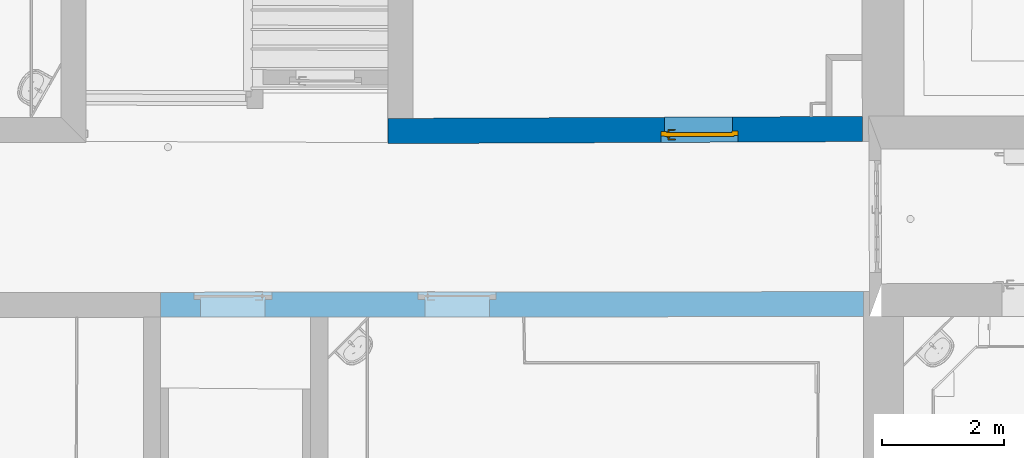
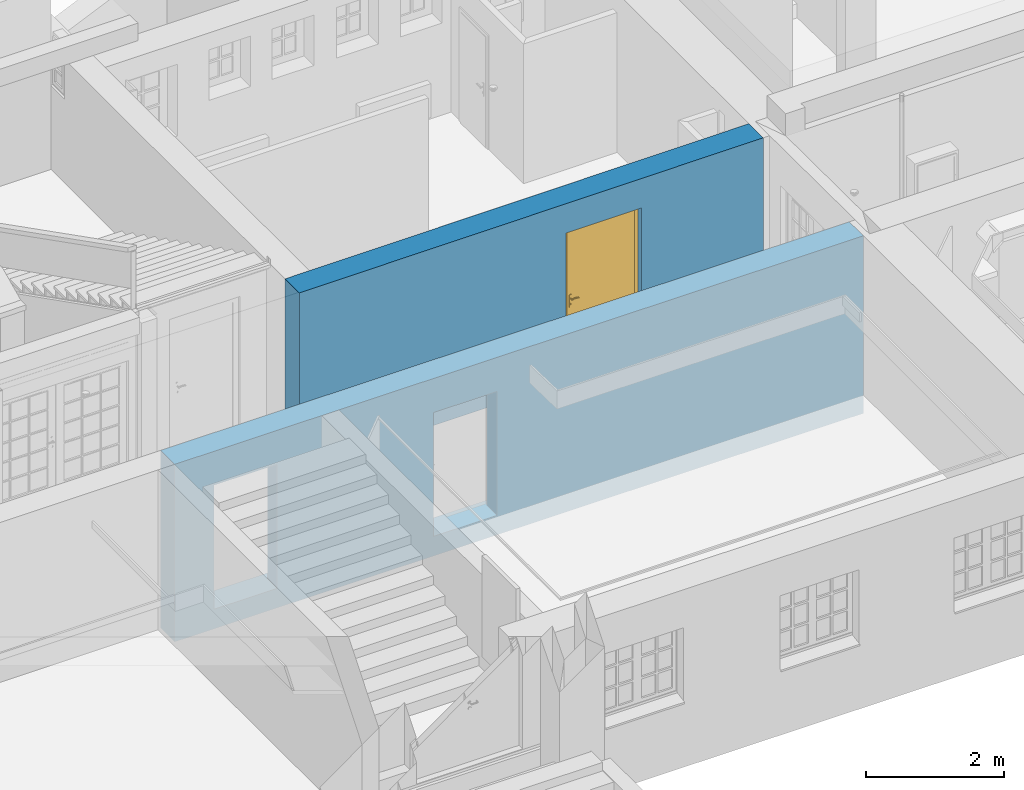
# One storey, part 89 of 196: 1 door, 1 wall, 3 openings, plus 1 element that does not belong to this part.
"""IFC2X3 building model written with IfcOpenShell, lengths in metres."""

from ifc_helpers import new_model, entity, si_unit, converted_unit, derived_unit, money_unit, direction, frame, origin_with_axes, origin_2d_with_axis, place, context, subcontext, project, spatial, polyline, rectangle, outline, extrude, boolean, faceted_brep, material, type_object, element, fill, save


model = new_model("IFC2X3")

# Units and contexts
model_context = context("Model", 3, precision=1e-05, world=origin_with_axes(), true_north=direction((0.0, 1.0)))
body_context = subcontext(model_context, "Body", "Model", "MODEL_VIEW")
ifc_project = project(units=[si_unit("LENGTHUNIT", "METRE"), si_unit("AREAUNIT", "SQUARE_METRE"), si_unit("VOLUMEUNIT", "CUBIC_METRE"), converted_unit("PLANEANGLEUNIT", "DEGREE", entity("IfcPlaneAngleMeasure", 0.0174532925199), si_unit("PLANEANGLEUNIT", "RADIAN"), dimensions=[0, 0, 0, 0, 0, 0, 0]), money_unit("EUR"), converted_unit("TIMEUNIT", "Year", entity("IfcTimeMeasure", 31556926.0), si_unit("TIMEUNIT", "SECOND"), dimensions=[0, 0, 1, 0, 0, 0, 0]), si_unit("MASSUNIT", "GRAM", prefix="KILO"), si_unit("THERMODYNAMICTEMPERATUREUNIT", "DEGREE_CELSIUS"), si_unit("LUMINOUSINTENSITYUNIT", "LUMEN"), si_unit("ENERGYUNIT", "JOULE", prefix="MEGA"), derived_unit("THERMALCONDUCTANCEUNIT", [(si_unit("POWERUNIT", "WATT"), 1), (si_unit("LENGTHUNIT", "METRE"), -1), (si_unit("THERMODYNAMICTEMPERATUREUNIT", "KELVIN"), -1)]), derived_unit("SPECIFICHEATCAPACITYUNIT", [(si_unit("ENERGYUNIT", "JOULE"), 1), (si_unit("MASSUNIT", "GRAM", prefix="KILO"), -1), (si_unit("THERMODYNAMICTEMPERATUREUNIT", "KELVIN"), -1)]), derived_unit("MASSDENSITYUNIT", [(si_unit("MASSUNIT", "GRAM", prefix="KILO"), 1), (si_unit("VOLUMEUNIT", "CUBIC_METRE"), -1)])], contexts=[model_context])

# Site, building, storey
site_placement = place(None, origin_with_axes())
site = spatial("IfcSite", under=ifc_project, at=site_placement, Name="Gelände", CompositionType="ELEMENT")
building_placement = place(site_placement, origin_with_axes())
building = spatial("IfcBuilding", under=site, at=building_placement, Name="Gebäude", CompositionType="ELEMENT")
storey_placement = place(building_placement, frame((0.0, 0.0, -3.0), z_axis=(0.0, 0.0, 1.0), x_axis=(1.0, 0.0, 0.0)))
storey = spatial("IfcBuildingStorey", under=building, at=storey_placement, Name="KELLERGESCHOSS", CompositionType="ELEMENT", Elevation=-3.0)

# Wall, openings
ifc_material = material(Name="05_ALLGEMEIN - TRAGENDE BAUTEILE")
wall_type_1 = type_object("IfcWallType", Name="05_ALLGEMEIN - TRAGENDE BAUTEILE 410", PredefinedType="ELEMENTEDWALL")
wall_1_placement = place(storey_placement, frame((3.60938984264, 16.81025163, -0.36), z_axis=(0.0, 0.0, 1.0), x_axis=(-0.999999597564, -0.000897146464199, 0.0)))
wall_1 = element("IfcWall", 1, at=wall_1_placement, inside=storey, type_object=wall_type_1, material=ifc_material, Name="Wand-036", ObjectType="ELEMENTEDWALL", context=body_context, shape_type="CSG", body=[
    boolean("DIFFERENCE", boolean("DIFFERENCE", extrude(outline(polyline([(0.0, 0.0), (12.2253754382, 0.0), (12.2253754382, 0.41), (0.0, 0.41), (0.0, 0.0)])), origin_with_axes(), (0.0, 0.0, 1.0), 3.15), faceted_brep([(12.2250234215, 0.41, 0.0), (12.2250234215, 0.41, 3.15), (12.2253754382, 0.41, 3.15), (12.2253754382, 0.41, 0.0), (12.2253754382, 0.0, 3.15), (12.2253754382, 0.0, 0.0)], [[[0, 1, 2, 3]], [[4, 1, 0, 5]], [[1, 4, 2]], [[4, 5, 3, 2]], [[5, 0, 3]]])), faceted_brep([(0.660000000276, 0.0, 3.15), (0.660011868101, 0.41, 3.15), (0.0, 0.41, 3.15), (0.0, 0.0, 3.15), (0.660011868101, 0.41, 0.0), (0.660000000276, 0.0, 0.0), (0.0, 0.41, 0.0), (0.0, 0.0, 0.0)], [[[0, 1, 2, 3]], [[4, 1, 0, 5]], [[1, 4, 6, 2]], [[2, 6, 7, 3]], [[5, 0, 3, 7]], [[4, 5, 7, 6]]])),
])
opening_1_placement = place(wall_1_placement, frame((7.34448336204, 0.0, 0.347304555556), z_axis=(0.0, 0.0, 1.0), x_axis=(1.0, 0.0, 0.0)))
element("IfcOpeningElement", 2, at=opening_1_placement, cuts=wall_1, Name="Tür-022", context=body_context, shape_type="SweptSolid", body=[
    extrude(rectangle(XDim=1.06444475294, YDim=2.200287, at=origin_2d_with_axis()), frame((0.0, 0.123, 1.1001435), z_axis=(0.0, -1.0, 0.0), x_axis=(-1.0, 0.0, 0.0)), (0.0, 0.0, -1.0), 0.697),
    extrude(rectangle(XDim=1.28444475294, YDim=2.310287, at=origin_2d_with_axis()), frame((0.0, 0.043, 1.1551435), z_axis=(0.0, 1.0, 0.0), x_axis=(-1.0, 0.0, 0.0)), (0.0, 0.0, 1.0), 0.08),
    extrude(rectangle(XDim=1.28444475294, YDim=2.310287, at=origin_2d_with_axis()), frame((0.0, 0.043, 1.1551435), z_axis=(0.0, 1.0, 0.0), x_axis=(-1.0, 0.0, 0.0)), (0.0, 0.0, -1.0), 0.453),
])
opening_2_placement = place(wall_1_placement, frame((11.0361313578, 0.0, 0.347304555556), z_axis=(0.0, 0.0, 1.0), x_axis=(1.0, 0.0, 0.0)))
element("IfcOpeningElement", 3, at=opening_2_placement, cuts=wall_1, Name="Tür-022", context=body_context, shape_type="SweptSolid", body=[
    extrude(rectangle(XDim=1.06444475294, YDim=2.200287, at=origin_2d_with_axis()), frame((0.0, 0.123, 1.1001435), z_axis=(0.0, 1.0, 0.0), x_axis=(1.0, 0.0, 0.0)), (0.0, 0.0, 1.0), 0.697),
    extrude(rectangle(XDim=1.28444475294, YDim=2.310287, at=origin_2d_with_axis()), frame((0.0, 0.043, 1.1551435), z_axis=(0.0, -1.0, 0.0), x_axis=(1.0, 0.0, 0.0)), (0.0, 0.0, -1.0), 0.08),
    extrude(rectangle(XDim=1.28444475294, YDim=2.310287, at=origin_2d_with_axis()), frame((0.0, 0.043, 1.1551435), z_axis=(0.0, -1.0, 0.0), x_axis=(1.0, 0.0, 0.0)), (0.0, 0.0, 1.0), 0.453),
])

# Wall, opening, door
wall_type_2 = type_object("IfcWallType", Name="05_ALLGEMEIN - TRAGENDE BAUTEILE 415", PredefinedType="ELEMENTEDWALL")
wall_2_placement = place(storey_placement, frame((3.62108026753, 19.2820486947, -0.36), z_axis=(0.0, 0.0, 1.0), x_axis=(-0.999990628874, -0.0043292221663, 0.0)))
wall_2 = element("IfcWall", 4, at=wall_2_placement, inside=storey, type_object=wall_type_2, material=ifc_material, Name="Wand-038", ObjectType="ELEMENTEDWALL", context=body_context, shape_type="CSG", body=[
    boolean("DIFFERENCE", boolean("DIFFERENCE", extrude(outline(polyline([(-0.00136566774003, -0.414615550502), (8.49651186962, -0.414615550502), (8.49651186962, 0.0), (-0.00136566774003, 0.0), (-0.00136566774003, -0.414615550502)])), origin_with_axes(), (0.0, 0.0, 1.0), 3.15), faceted_brep([(8.49651186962, 0.0, 3.15), (8.49453407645, -0.414615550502, 3.15), (8.49651186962, -0.414615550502, 3.15), (8.49453407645, -0.414615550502, 0.0), (8.49651186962, 0.0, 0.0), (8.49651186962, -0.414615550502, 0.0)], [[[0, 1, 2]], [[3, 1, 0, 4]], [[1, 3, 5, 2]], [[4, 0, 2, 5]], [[3, 4, 5]]])), faceted_brep([(0.688638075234, -0.414615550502, 3.15), (0.690003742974, 0.0, 3.15), (-0.00136566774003, 0.0, 3.15), (-0.00136566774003, -0.414615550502, 3.15), (0.690003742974, 0.0, 0.0), (0.688638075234, -0.414615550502, 0.0), (-0.00136566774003, 0.0, 0.0), (-0.00136566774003, -0.414615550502, 0.0)], [[[0, 1, 2, 3]], [[4, 1, 0, 5]], [[1, 4, 6, 2]], [[2, 6, 7, 3]], [[5, 0, 3, 7]], [[4, 5, 7, 6]]])),
])
opening_3_placement = place(wall_2_placement, frame((3.37078015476, 0.0, 0.324928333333), z_axis=(0.0, 0.0, 1.0), x_axis=(1.0, 0.0, 0.0)))
opening_3 = element("IfcOpeningElement", 5, at=opening_3_placement, cuts=wall_2, Name="Tür-022", context=body_context, shape_type="SweptSolid", body=[
    extrude(rectangle(XDim=1.11913323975, YDim=2.243924, at=origin_2d_with_axis()), frame((0.015, -0.18, 1.121962), z_axis=(0.0, -1.0, 0.0), x_axis=(-1.0, 0.0, 0.0)), (0.0, 0.0, 1.0), 0.649231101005),
    extrude(rectangle(XDim=1.26913323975, YDim=2.303924, at=origin_2d_with_axis()), frame((0.0, -0.11, 1.151962), z_axis=(0.0, 1.0, 0.0), x_axis=(-1.0, 0.0, 0.0)), (0.0, 0.0, 1.0), 0.524615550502),
    extrude(rectangle(XDim=1.26913323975, YDim=2.303924, at=origin_2d_with_axis()), frame((0.0, -0.11, 1.151962), z_axis=(0.0, 1.0, 0.0), x_axis=(-1.0, 0.0, 0.0)), (0.0, 0.0, -1.0), 0.07),
])
door_style = type_object("IfcDoorStyle", Name="Blockrahmentür 1-Fl 25", ConstructionType="NOTDEFINED", OperationType="SINGLE_SWING_LEFT", ParameterTakesPrecedence=False, Sizeable=False)
door_placement = place(opening_3_placement, frame((-0.539566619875, 0.0, 0.0), z_axis=(0.0, 0.0, 1.0), x_axis=(1.0, 0.0, 0.0)))
door = element("IfcDoor", 6, at=door_placement, inside=storey, type_object=door_style, Name="Tür-022", ObjectType="NOTDEFINED", OverallHeight=2.30392, OverallWidth=1.26913, context=body_context, shape_type="Brep", body=[
    faceted_brep([(-0.095, -0.18, 0.0), (-0.095, -0.18, 2.303924), (-0.095, -0.16, 2.303924), (-0.095, -0.16, 0.0), (0.0, -0.18, 0.0), (0.0, -0.18, 2.208924), (0.409466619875, -0.18, 2.208924), (0.539466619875, -0.18, 2.208924), (1.07913323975, -0.18, 2.208924), (1.07913323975, -0.18, 0.0), (1.17413323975, -0.18, 0.0), (1.17413323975, -0.18, 2.303924), (1.17413323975, -0.16, 2.303924), (1.17413323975, -0.16, 0.0), (1.07913323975, -0.16, 0.0), (1.07913323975, -0.16, 2.208924), (0.539466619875, -0.16, 2.208924), (0.409466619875, -0.16, 2.208924), (0.0, -0.16, 2.208924), (0.0, -0.16, 0.0)], [[[0, 1, 2, 3]], [[0, 4, 5, 6, 7, 8, 9, 10, 11, 1]], [[1, 11, 12, 2]], [[3, 2, 12, 13, 14, 15, 16, 17, 18, 19]], [[4, 0, 3, 19]], [[5, 4, 19, 18]], [[6, 5, 18, 17]], [[7, 6, 17, 16]], [[8, 7, 16, 15]], [[9, 8, 15, 14]], [[10, 9, 14, 13]], [[11, 10, 13, 12]]]),
    faceted_brep([(-0.095, -0.16, 0.0), (-0.095, -0.16, 2.303924), (-0.095, -0.11, 2.303924), (-0.095, -0.11, 0.0), (-0.03, -0.16, 0.0), (-0.03, -0.16, 2.238924), (0.439466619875, -0.16, 2.238924), (0.509466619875, -0.16, 2.238924), (1.10913323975, -0.16, 2.238924), (1.10913323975, -0.16, 0.0), (1.17413323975, -0.16, 0.0), (1.17413323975, -0.16, 2.303924), (1.17413323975, -0.11, 2.303924), (1.17413323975, -0.11, 0.0), (1.10913323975, -0.11, 0.0), (1.10913323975, -0.11, 2.238924), (0.509466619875, -0.11, 2.238924), (0.439466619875, -0.11, 2.238924), (-0.03, -0.11, 2.238924), (-0.03, -0.11, 0.0)], [[[0, 1, 2, 3]], [[0, 4, 5, 6, 7, 8, 9, 10, 11, 1]], [[1, 11, 12, 2]], [[3, 2, 12, 13, 14, 15, 16, 17, 18, 19]], [[4, 0, 3, 19]], [[5, 4, 19, 18]], [[6, 5, 18, 17]], [[7, 6, 17, 16]], [[8, 7, 16, 15]], [[9, 8, 15, 14]], [[10, 9, 14, 13]], [[11, 10, 13, 12]]]),
    faceted_brep([(-0.03, -0.095, 0.0), (-0.03, -0.095, 2.238924), (1.10913323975, -0.095, 2.238924), (1.10913323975, -0.095, 0.0), (-0.03, -0.16, 0.0), (-0.03, -0.16, 2.238924), (1.10913323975, -0.16, 2.238924), (1.10913323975, -0.16, 0.0)], [[[0, 1, 2, 3]], [[0, 4, 5, 1]], [[1, 5, 6, 2]], [[2, 6, 7, 3]], [[3, 7, 4, 0]], [[7, 6, 5, 4]]]),
    faceted_brep([(1.05383552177, -0.2, 1.05647213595), (1.05383552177, -0.18, 1.05647213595), (1.04913323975, -0.18, 1.058), (1.04913323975, -0.2, 1.058), (1.05674169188, -0.2, 1.05247213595), (1.05674169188, -0.18, 1.05247213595), (1.05501109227, -0.178, 1.05809016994), (1.04913323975, -0.178, 1.06), (1.04443095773, -0.18, 1.05647213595), (1.04443095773, -0.2, 1.05647213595), (1.04152478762, -0.2, 1.05247213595), (1.04152478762, -0.2, 1.04752786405), (1.04443095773, -0.2, 1.04352786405), (1.04913323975, -0.2, 1.042), (1.05383552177, -0.2, 1.04352786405), (1.05674169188, -0.2, 1.04752786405), (1.05674169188, -0.18, 1.04752786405), (1.05864380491, -0.178, 1.05309016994), (1.05501109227, -0.17, 1.05809016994), (1.04913323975, -0.17, 1.06), (1.04325538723, -0.178, 1.05809016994), (1.04152478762, -0.18, 1.05247213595), (1.04152478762, -0.18, 1.04752786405), (1.04443095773, -0.18, 1.04352786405), (1.04913323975, -0.18, 1.042), (1.05383552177, -0.18, 1.04352786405), (1.05864380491, -0.178, 1.04690983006), (1.05864380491, -0.17, 1.05309016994), (1.05864380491, -0.17, 1.04690983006), (1.05501109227, -0.17, 1.04190983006), (1.04913323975, -0.17, 1.04), (1.04325538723, -0.17, 1.04190983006), (1.03962267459, -0.17, 1.04690983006), (1.03962267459, -0.17, 1.05309016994), (1.04325538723, -0.17, 1.05809016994), (1.03962267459, -0.178, 1.05309016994), (1.03962267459, -0.178, 1.04690983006), (1.04325538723, -0.178, 1.04190983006), (1.04913323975, -0.178, 1.04), (1.05501109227, -0.178, 1.04190983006)], [[[0, 1, 2, 3]], [[4, 5, 1, 0]], [[1, 6, 7, 2]], [[3, 2, 8, 9]], [[3, 9, 10, 11, 12, 13, 14, 15, 4, 0]], [[15, 16, 5, 4]], [[5, 17, 6, 1]], [[6, 18, 19, 7]], [[2, 7, 20, 8]], [[9, 8, 21, 10]], [[10, 21, 22, 11]], [[11, 22, 23, 12]], [[12, 23, 24, 13]], [[13, 24, 25, 14]], [[14, 25, 16, 15]], [[16, 26, 17, 5]], [[17, 27, 18, 6]], [[19, 18, 27, 28, 29, 30, 31, 32, 33, 34]], [[7, 19, 34, 20]], [[8, 20, 35, 21]], [[21, 35, 36, 22]], [[22, 36, 37, 23]], [[23, 37, 38, 24]], [[24, 38, 39, 25]], [[25, 39, 26, 16]], [[26, 28, 27, 17]], [[39, 29, 28, 26]], [[38, 30, 29, 39]], [[37, 31, 30, 38]], [[36, 32, 31, 37]], [[35, 33, 32, 36]], [[20, 34, 33, 35]]]),
    faceted_brep([(1.03694485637, -0.17, 1.11759695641), (1.03233323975, -0.17, 1.11), (1.02663323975, -0.17, 1.11), (1.02663323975, -0.17, 0.89), (1.03233323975, -0.17, 0.89), (1.03694485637, -0.17, 0.882403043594), (1.0446896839, -0.17, 0.878044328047), (1.0535767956, -0.17, 0.878044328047), (1.06132162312, -0.17, 0.882403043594), (1.06593323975, -0.17, 0.89), (1.07163323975, -0.17, 0.89), (1.07163323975, -0.17, 1.11), (1.06593323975, -0.17, 1.11), (1.06132162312, -0.17, 1.11759695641), (1.0535767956, -0.17, 1.12195567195), (1.0446896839, -0.17, 1.12195567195), (1.04913323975, -0.17, 0.967425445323), (1.05450842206, -0.17, 0.965143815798), (1.05660107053, -0.17, 0.959692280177), (1.05413323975, -0.17, 0.9544), (1.05413323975, -0.17, 0.9375), (1.05266877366, -0.17, 0.933964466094), (1.04913323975, -0.17, 0.9325), (1.04559770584, -0.17, 0.933964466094), (1.04413323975, -0.17, 0.9375), (1.04413323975, -0.17, 0.9544), (1.04166540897, -0.17, 0.959692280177), (1.04375805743, -0.17, 0.965143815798), (1.03694485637, -0.16, 1.11759695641), (1.03233323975, -0.16, 1.11), (1.02663323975, -0.16, 1.11), (1.02663323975, -0.16, 0.89), (1.03233323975, -0.16, 0.89), (1.03694485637, -0.16, 0.882403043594), (1.0446896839, -0.16, 0.878044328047), (1.0535767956, -0.16, 0.878044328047), (1.06132162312, -0.16, 0.882403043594), (1.06593323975, -0.16, 0.89), (1.07163323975, -0.16, 0.89), (1.07163323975, -0.16, 1.11), (1.06593323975, -0.16, 1.11), (1.06132162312, -0.16, 1.11759695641), (1.0535767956, -0.16, 1.12195567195), (1.0446896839, -0.16, 1.12195567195), (1.04913323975, -0.16, 0.967425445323), (1.05450842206, -0.16, 0.965143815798), (1.05660107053, -0.16, 0.959692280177), (1.05413323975, -0.16, 0.9544), (1.05413323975, -0.16, 0.9375), (1.05266877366, -0.16, 0.933964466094), (1.04913323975, -0.16, 0.9325), (1.04559770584, -0.16, 0.933964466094), (1.04413323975, -0.16, 0.9375), (1.04413323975, -0.16, 0.9544), (1.04166540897, -0.16, 0.959692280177), (1.04375805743, -0.16, 0.965143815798)], [[[0, 1, 2, 3, 4, 5, 6, 7, 8, 9, 10, 11, 12, 13, 14, 15], [16, 17, 18, 19, 20, 21, 22, 23, 24, 25, 26, 27]], [[0, 28, 29, 1]], [[1, 29, 30, 2]], [[2, 30, 31, 3]], [[3, 31, 32, 4]], [[4, 32, 33, 5]], [[5, 33, 34, 6]], [[6, 34, 35, 7]], [[7, 35, 36, 8]], [[8, 36, 37, 9]], [[9, 37, 38, 10]], [[10, 38, 39, 11]], [[11, 39, 40, 12]], [[12, 40, 41, 13]], [[13, 41, 42, 14]], [[14, 42, 43, 15]], [[15, 43, 28, 0]], [[16, 44, 45, 17]], [[17, 45, 46, 18]], [[18, 46, 47, 19]], [[47, 48, 20, 19]], [[21, 20, 48, 49]], [[22, 21, 49, 50]], [[23, 22, 50, 51]], [[24, 23, 51, 52]], [[25, 24, 52, 53]], [[25, 53, 54, 26]], [[26, 54, 55, 27]], [[27, 55, 44, 16]], [[32, 31, 30, 29, 28, 43, 42, 41, 40, 39, 38, 37, 36, 35, 34, 33], [46, 45, 44, 55, 54, 53, 52, 51, 50, 49, 48, 47]]]),
    faceted_brep([(0.93488023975, -0.2, 1.057158), (0.934878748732, -0.2, 1.05719388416), (0.934878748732, -0.215, 1.05719388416), (0.93488023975, -0.215, 1.057158), (0.961907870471, -0.2, 1.06432652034), (0.989735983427, -0.2, 1.06706086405), (1.01764198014, -0.2, 1.06529002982), (1.04490123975, -0.2, 1.05906), (1.05130381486, -0.2, 1.05976125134), (1.05680587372, -0.2, 1.05641280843), (1.05912475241, -0.2, 1.05040385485), (1.05729840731, -0.2, 1.04422735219), (1.05208454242, -0.2, 1.04044577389), (1.04564625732, -0.2, 1.04062800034), (1.0406546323, -0.2, 1.04469843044), (1.04067523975, -0.2, 1.044666), (1.01538652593, -0.2, 1.05019878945), (0.989544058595, -0.2, 1.05171460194), (0.963781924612, -0.2, 1.04917624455), (0.93873223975, -0.2, 1.042646), (0.933189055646, -0.2, 1.04356849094), (0.92982751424, -0.2, 1.04807159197), (0.930519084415, -0.2, 1.05364829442), (0.930519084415, -0.215, 1.05364829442), (0.92982751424, -0.215, 1.04807159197), (0.933189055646, -0.215, 1.04356849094), (0.93873223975, -0.215, 1.042646), (0.963781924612, -0.215, 1.04917624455), (0.989544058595, -0.215, 1.05171460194), (1.01538652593, -0.215, 1.05019878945), (1.04067523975, -0.215, 1.044666), (1.0406546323, -0.215, 1.04469843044), (1.04564625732, -0.215, 1.04062800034), (1.05208454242, -0.215, 1.04044577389), (1.05729840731, -0.215, 1.04422735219), (1.05912475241, -0.215, 1.05040385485), (1.05680587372, -0.215, 1.05641280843), (1.05130381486, -0.215, 1.05976125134), (1.04490123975, -0.215, 1.05906), (1.01764198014, -0.215, 1.06529002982), (0.989735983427, -0.215, 1.06706086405), (0.961907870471, -0.215, 1.06432652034)], [[[0, 1, 2, 3]], [[0, 4, 5, 6, 7, 8, 9, 10, 11, 12, 13, 14, 15, 16, 17, 18, 19, 20, 21, 22, 1]], [[1, 22, 23, 2]], [[3, 2, 23, 24, 25, 26, 27, 28, 29, 30, 31, 32, 33, 34, 35, 36, 37, 38, 39, 40, 41]], [[4, 0, 3, 41]], [[5, 4, 41, 40]], [[6, 5, 40, 39]], [[7, 6, 39, 38]], [[8, 7, 38, 37]], [[9, 8, 37, 36]], [[10, 9, 36, 35]], [[11, 10, 35, 34]], [[12, 11, 34, 33]], [[13, 12, 33, 32]], [[14, 13, 32, 31]], [[15, 14, 31, 30]], [[16, 15, 30, 29]], [[17, 16, 29, 28]], [[18, 17, 28, 27]], [[19, 18, 27, 26]], [[20, 19, 26, 25]], [[21, 20, 25, 24]], [[22, 21, 24, 23]]]),
    faceted_brep([(1.05383552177, -0.055, 1.05647213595), (1.04913323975, -0.055, 1.058), (1.04913323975, -0.075, 1.058), (1.05383552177, -0.075, 1.05647213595), (1.05674169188, -0.055, 1.05247213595), (1.05674169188, -0.055, 1.04752786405), (1.05383552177, -0.055, 1.04352786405), (1.04913323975, -0.055, 1.042), (1.04443095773, -0.055, 1.04352786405), (1.04152478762, -0.055, 1.04752786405), (1.04152478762, -0.055, 1.05247213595), (1.04443095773, -0.055, 1.05647213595), (1.04443095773, -0.075, 1.05647213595), (1.04913323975, -0.077, 1.06), (1.05501109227, -0.077, 1.05809016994), (1.05674169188, -0.075, 1.05247213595), (1.05674169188, -0.075, 1.04752786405), (1.05383552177, -0.075, 1.04352786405), (1.04913323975, -0.075, 1.042), (1.04443095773, -0.075, 1.04352786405), (1.04152478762, -0.075, 1.04752786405), (1.04152478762, -0.075, 1.05247213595), (1.04325538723, -0.077, 1.05809016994), (1.04913323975, -0.085, 1.06), (1.05501109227, -0.085, 1.05809016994), (1.05864380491, -0.077, 1.05309016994), (1.05864380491, -0.077, 1.04690983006), (1.05501109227, -0.077, 1.04190983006), (1.04913323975, -0.077, 1.04), (1.04325538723, -0.077, 1.04190983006), (1.03962267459, -0.077, 1.04690983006), (1.03962267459, -0.077, 1.05309016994), (1.04325538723, -0.085, 1.05809016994), (1.03962267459, -0.085, 1.05309016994), (1.03962267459, -0.085, 1.04690983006), (1.04325538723, -0.085, 1.04190983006), (1.04913323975, -0.085, 1.04), (1.05501109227, -0.085, 1.04190983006), (1.05864380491, -0.085, 1.04690983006), (1.05864380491, -0.085, 1.05309016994)], [[[0, 1, 2, 3]], [[1, 0, 4, 5, 6, 7, 8, 9, 10, 11]], [[1, 11, 12, 2]], [[3, 2, 13, 14]], [[4, 0, 3, 15]], [[5, 4, 15, 16]], [[6, 5, 16, 17]], [[7, 6, 17, 18]], [[8, 7, 18, 19]], [[9, 8, 19, 20]], [[10, 9, 20, 21]], [[11, 10, 21, 12]], [[2, 12, 22, 13]], [[14, 13, 23, 24]], [[15, 3, 14, 25]], [[16, 15, 25, 26]], [[17, 16, 26, 27]], [[18, 17, 27, 28]], [[19, 18, 28, 29]], [[20, 19, 29, 30]], [[21, 20, 30, 31]], [[12, 21, 31, 22]], [[13, 22, 32, 23]], [[23, 32, 33, 34, 35, 36, 37, 38, 39, 24]], [[25, 14, 24, 39]], [[26, 25, 39, 38]], [[27, 26, 38, 37]], [[28, 27, 37, 36]], [[29, 28, 36, 35]], [[30, 29, 35, 34]], [[31, 30, 34, 33]], [[22, 31, 33, 32]]]),
    faceted_brep([(1.03694485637, -0.095, 1.11759695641), (1.03233323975, -0.095, 1.11), (1.02663323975, -0.095, 1.11), (1.02663323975, -0.095, 0.89), (1.03233323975, -0.095, 0.89), (1.03694485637, -0.095, 0.882403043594), (1.0446896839, -0.095, 0.878044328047), (1.0535767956, -0.095, 0.878044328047), (1.06132162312, -0.095, 0.882403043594), (1.06593323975, -0.095, 0.89), (1.07163323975, -0.095, 0.89), (1.07163323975, -0.095, 1.11), (1.06593323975, -0.095, 1.11), (1.06132162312, -0.095, 1.11759695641), (1.0535767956, -0.095, 1.12195567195), (1.0446896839, -0.095, 1.12195567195), (1.04913323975, -0.095, 0.967425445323), (1.05450842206, -0.095, 0.965143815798), (1.05660107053, -0.095, 0.959692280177), (1.05413323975, -0.095, 0.9544), (1.05413323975, -0.095, 0.9375), (1.05266877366, -0.095, 0.933964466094), (1.04913323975, -0.095, 0.9325), (1.04559770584, -0.095, 0.933964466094), (1.04413323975, -0.095, 0.9375), (1.04413323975, -0.095, 0.9544), (1.04166540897, -0.095, 0.959692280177), (1.04375805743, -0.095, 0.965143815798), (1.03694485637, -0.085, 1.11759695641), (1.03233323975, -0.085, 1.11), (1.02663323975, -0.085, 1.11), (1.02663323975, -0.085, 0.89), (1.03233323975, -0.085, 0.89), (1.03694485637, -0.085, 0.882403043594), (1.0446896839, -0.085, 0.878044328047), (1.0535767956, -0.085, 0.878044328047), (1.06132162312, -0.085, 0.882403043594), (1.06593323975, -0.085, 0.89), (1.07163323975, -0.085, 0.89), (1.07163323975, -0.085, 1.11), (1.06593323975, -0.085, 1.11), (1.06132162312, -0.085, 1.11759695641), (1.0535767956, -0.085, 1.12195567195), (1.0446896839, -0.085, 1.12195567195), (1.04913323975, -0.085, 0.967425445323), (1.05450842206, -0.085, 0.965143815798), (1.05660107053, -0.085, 0.959692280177), (1.05413323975, -0.085, 0.9544), (1.05413323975, -0.085, 0.9375), (1.05266877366, -0.085, 0.933964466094), (1.04913323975, -0.085, 0.9325), (1.04559770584, -0.085, 0.933964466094), (1.04413323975, -0.085, 0.9375), (1.04413323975, -0.085, 0.9544), (1.04166540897, -0.085, 0.959692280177), (1.04375805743, -0.085, 0.965143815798)], [[[0, 1, 2, 3, 4, 5, 6, 7, 8, 9, 10, 11, 12, 13, 14, 15], [16, 17, 18, 19, 20, 21, 22, 23, 24, 25, 26, 27]], [[28, 29, 1, 0]], [[29, 30, 2, 1]], [[30, 31, 3, 2]], [[31, 32, 4, 3]], [[32, 33, 5, 4]], [[33, 34, 6, 5]], [[34, 35, 7, 6]], [[35, 36, 8, 7]], [[36, 37, 9, 8]], [[37, 38, 10, 9]], [[38, 39, 11, 10]], [[39, 40, 12, 11]], [[40, 41, 13, 12]], [[41, 42, 14, 13]], [[42, 43, 15, 14]], [[43, 28, 0, 15]], [[16, 44, 45, 17]], [[17, 45, 46, 18]], [[18, 46, 47, 19]], [[47, 48, 20, 19]], [[21, 20, 48, 49]], [[22, 21, 49, 50]], [[23, 22, 50, 51]], [[24, 23, 51, 52]], [[25, 24, 52, 53]], [[25, 53, 54, 26]], [[26, 54, 55, 27]], [[27, 55, 44, 16]], [[32, 31, 30, 29, 28, 43, 42, 41, 40, 39, 38, 37, 36, 35, 34, 33], [46, 45, 44, 55, 54, 53, 52, 51, 50, 49, 48, 47]]]),
    faceted_brep([(0.93488023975, -0.055, 1.057158), (0.93488023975, -0.04, 1.057158), (0.934878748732, -0.04, 1.05719388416), (0.934878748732, -0.055, 1.05719388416), (0.961907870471, -0.055, 1.06432652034), (0.961907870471, -0.04, 1.06432652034), (0.989735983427, -0.04, 1.06706086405), (1.01764198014, -0.04, 1.06529002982), (1.04490123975, -0.04, 1.05906), (1.05130381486, -0.04, 1.05976125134), (1.05680587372, -0.04, 1.05641280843), (1.05912475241, -0.04, 1.05040385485), (1.05729840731, -0.04, 1.04422735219), (1.05208454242, -0.04, 1.04044577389), (1.04564625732, -0.04, 1.04062800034), (1.0406546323, -0.04, 1.04469843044), (1.04067523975, -0.04, 1.044666), (1.01538652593, -0.04, 1.05019878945), (0.989544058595, -0.04, 1.05171460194), (0.963781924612, -0.04, 1.04917624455), (0.93873223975, -0.04, 1.042646), (0.933189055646, -0.04, 1.04356849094), (0.92982751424, -0.04, 1.04807159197), (0.930519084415, -0.04, 1.05364829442), (0.930519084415, -0.055, 1.05364829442), (0.92982751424, -0.055, 1.04807159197), (0.933189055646, -0.055, 1.04356849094), (0.93873223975, -0.055, 1.042646), (0.963781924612, -0.055, 1.04917624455), (0.989544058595, -0.055, 1.05171460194), (1.01538652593, -0.055, 1.05019878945), (1.04067523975, -0.055, 1.044666), (1.0406546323, -0.055, 1.04469843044), (1.04564625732, -0.055, 1.04062800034), (1.05208454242, -0.055, 1.04044577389), (1.05729840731, -0.055, 1.04422735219), (1.05912475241, -0.055, 1.05040385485), (1.05680587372, -0.055, 1.05641280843), (1.05130381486, -0.055, 1.05976125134), (1.04490123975, -0.055, 1.05906), (1.01764198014, -0.055, 1.06529002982), (0.989735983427, -0.055, 1.06706086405)], [[[0, 1, 2, 3]], [[4, 5, 1, 0]], [[1, 5, 6, 7, 8, 9, 10, 11, 12, 13, 14, 15, 16, 17, 18, 19, 20, 21, 22, 23, 2]], [[3, 2, 23, 24]], [[0, 3, 24, 25, 26, 27, 28, 29, 30, 31, 32, 33, 34, 35, 36, 37, 38, 39, 40, 41, 4]], [[41, 6, 5, 4]], [[40, 7, 6, 41]], [[39, 8, 7, 40]], [[38, 9, 8, 39]], [[37, 10, 9, 38]], [[36, 11, 10, 37]], [[35, 12, 11, 36]], [[34, 13, 12, 35]], [[33, 14, 13, 34]], [[32, 15, 14, 33]], [[31, 16, 15, 32]], [[30, 17, 16, 31]], [[29, 18, 17, 30]], [[28, 19, 18, 29]], [[27, 20, 19, 28]], [[26, 21, 20, 27]], [[25, 22, 21, 26]], [[24, 23, 22, 25]]]),
])
fill(opening_3, door)

save(model, "model.ifc")
